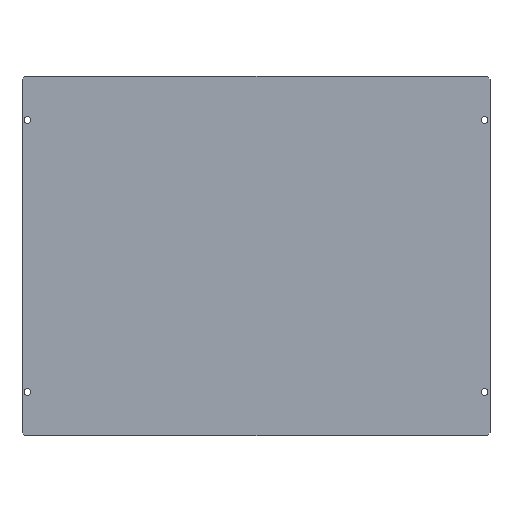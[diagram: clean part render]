
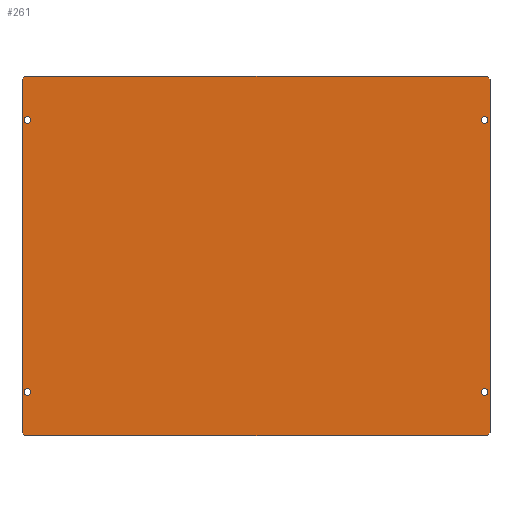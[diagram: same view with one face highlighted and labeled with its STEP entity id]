
A CAD part, front view. The second image highlights one B-rep face of the part: STEP entity #261.
In plain terms, the highlighted planar face has unit normal (0, -1, 0).
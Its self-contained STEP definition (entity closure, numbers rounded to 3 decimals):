
#4 = VERTEX_POINT ( 'NONE', #731 ) ;
#5 = DIRECTION ( 'NONE',  ( 0., 1., 0. ) ) ;
#8 = CARTESIAN_POINT ( 'NONE',  ( 85., 0., -66. ) ) ;
#15 = VERTEX_POINT ( 'NONE', #314 ) ;
#16 = LINE ( 'NONE', #64, #494 ) ;
#25 = VECTOR ( 'NONE', #175, 1000. ) ;
#42 = PLANE ( 'NONE',  #516 ) ;
#44 = DIRECTION ( 'NONE',  ( 0., 1., 0. ) ) ;
#56 = ORIENTED_EDGE ( 'NONE', *, *, #548, .T. ) ;
#58 = ORIENTED_EDGE ( 'NONE', *, *, #232, .T. ) ;
#59 = AXIS2_PLACEMENT_3D ( 'NONE', #673, #5, #184 ) ;
#64 = CARTESIAN_POINT ( 'NONE',  ( -86., 0., -66. ) ) ;
#67 = VERTEX_POINT ( 'NONE', #8 ) ;
#74 = VERTEX_POINT ( 'NONE', #346 ) ;
#77 = EDGE_CURVE ( 'NONE', #608, #513, #311, .T. ) ;
#78 = CARTESIAN_POINT ( 'NONE',  ( -84., 0., 50. ) ) ;
#80 = EDGE_LOOP ( 'NONE', ( #373, #345 ) ) ;
#87 = AXIS2_PLACEMENT_3D ( 'NONE', #78, #638, #337 ) ;
#97 = CARTESIAN_POINT ( 'NONE',  ( -86., 0., -65. ) ) ;
#100 = DIRECTION ( 'NONE',  ( 0.707, 0., 0.707 ) ) ;
#102 = DIRECTION ( 'NONE',  ( 0., 0., 1. ) ) ;
#104 = CIRCLE ( 'NONE', #59, 1.2 ) ;
#107 = FACE_BOUND ( 'NONE', #691, .T. ) ;
#108 = DIRECTION ( 'NONE',  ( 0., 1., 0. ) ) ;
#110 = EDGE_CURVE ( 'NONE', #336, #74, #316, .T. ) ;
#120 = EDGE_LOOP ( 'NONE', ( #644, #193 ) ) ;
#129 = DIRECTION ( 'NONE',  ( 0., 1., 0. ) ) ;
#133 = CARTESIAN_POINT ( 'NONE',  ( 86., 0., -65. ) ) ;
#158 = CARTESIAN_POINT ( 'NONE',  ( -85., 0., 66. ) ) ;
#159 = VECTOR ( 'NONE', #100, 1000. ) ;
#167 = DIRECTION ( 'NONE',  ( 0., 0., 1. ) ) ;
#168 = EDGE_CURVE ( 'NONE', #336, #278, #432, .T. ) ;
#175 = DIRECTION ( 'NONE',  ( -0.707, 0., 0.707 ) ) ;
#176 = CIRCLE ( 'NONE', #769, 1.2 ) ;
#180 = FACE_BOUND ( 'NONE', #226, .T. ) ;
#184 = DIRECTION ( 'NONE',  ( 0., 0., 1. ) ) ;
#188 = LINE ( 'NONE', #509, #482 ) ;
#191 = DIRECTION ( 'NONE',  ( 0., 0., 1. ) ) ;
#193 = ORIENTED_EDGE ( 'NONE', *, *, #497, .T. ) ;
#200 = DIRECTION ( 'NONE',  ( -1., 0., 0. ) ) ;
#202 = EDGE_CURVE ( 'NONE', #67, #738, #546, .T. ) ;
#203 = VECTOR ( 'NONE', #595, 1000. ) ;
#205 = VERTEX_POINT ( 'NONE', #528 ) ;
#217 = DIRECTION ( 'NONE',  ( 0.707, 0., -0.707 ) ) ;
#220 = CARTESIAN_POINT ( 'NONE',  ( -86., 0., -65. ) ) ;
#226 = EDGE_LOOP ( 'NONE', ( #549, #58 ) ) ;
#232 = EDGE_CURVE ( 'NONE', #15, #433, #392, .T. ) ;
#236 = DIRECTION ( 'NONE',  ( -0.707, 0., -0.707 ) ) ;
#243 = DIRECTION ( 'NONE',  ( 0., 0., 1. ) ) ;
#260 = DIRECTION ( 'NONE',  ( 0., 0., 1. ) ) ;
#261 = ADVANCED_FACE ( 'NONE', ( #180, #403, #291, #107, #742 ), #42, .F. ) ;
#274 = DIRECTION ( 'NONE',  ( 0., 1., 0. ) ) ;
#277 = EDGE_CURVE ( 'NONE', #445, #738, #441, .T. ) ;
#278 = VERTEX_POINT ( 'NONE', #774 ) ;
#287 = CIRCLE ( 'NONE', #616, 1.2 ) ;
#291 = FACE_BOUND ( 'NONE', #120, .T. ) ;
#296 = ORIENTED_EDGE ( 'NONE', *, *, #375, .T. ) ;
#297 = CARTESIAN_POINT ( 'NONE',  ( -86., 0., 66. ) ) ;
#300 = CIRCLE ( 'NONE', #413, 1.2 ) ;
#310 = CARTESIAN_POINT ( 'NONE',  ( -84., 0., 48.8 ) ) ;
#311 = CIRCLE ( 'NONE', #87, 1.2 ) ;
#314 = CARTESIAN_POINT ( 'NONE',  ( -84., 0., -51.2 ) ) ;
#316 = LINE ( 'NONE', #444, #203 ) ;
#325 = VECTOR ( 'NONE', #236, 1000. ) ;
#335 = VECTOR ( 'NONE', #655, 1000. ) ;
#336 = VERTEX_POINT ( 'NONE', #97 ) ;
#337 = DIRECTION ( 'NONE',  ( 0., 0., 1. ) ) ;
#339 = DIRECTION ( 'NONE',  ( 0., 0., 1. ) ) ;
#343 = EDGE_CURVE ( 'NONE', #421, #4, #594, .T. ) ;
#345 = ORIENTED_EDGE ( 'NONE', *, *, #77, .T. ) ;
#346 = CARTESIAN_POINT ( 'NONE',  ( -86., 0., 65. ) ) ;
#347 = ORIENTED_EDGE ( 'NONE', *, *, #202, .T. ) ;
#358 = CARTESIAN_POINT ( 'NONE',  ( 86., 0., 65. ) ) ;
#361 = DIRECTION ( 'NONE',  ( 0., 1., 0. ) ) ;
#365 = ORIENTED_EDGE ( 'NONE', *, *, #667, .F. ) ;
#366 = EDGE_LOOP ( 'NONE', ( #514, #56, #365, #296, #585, #582, #542, #347 ) ) ;
#370 = CARTESIAN_POINT ( 'NONE',  ( -84., 0., 51.2 ) ) ;
#373 = ORIENTED_EDGE ( 'NONE', *, *, #676, .T. ) ;
#375 = EDGE_CURVE ( 'NONE', #752, #74, #603, .T. ) ;
#378 = DIRECTION ( 'NONE',  ( 0., 1., 0. ) ) ;
#392 = CIRCLE ( 'NONE', #577, 1.2 ) ;
#403 = FACE_BOUND ( 'NONE', #80, .T. ) ;
#413 = AXIS2_PLACEMENT_3D ( 'NONE', #788, #378, #260 ) ;
#414 = VERTEX_POINT ( 'NONE', #653 ) ;
#421 = VERTEX_POINT ( 'NONE', #620 ) ;
#424 = VERTEX_POINT ( 'NONE', #557 ) ;
#426 = DIRECTION ( 'NONE',  ( 0., 1., 0. ) ) ;
#432 = LINE ( 'NONE', #220, #583 ) ;
#433 = VERTEX_POINT ( 'NONE', #434 ) ;
#434 = CARTESIAN_POINT ( 'NONE',  ( -84., 0., -48.8 ) ) ;
#439 = CARTESIAN_POINT ( 'NONE',  ( 86., 0., 65. ) ) ;
#441 = LINE ( 'NONE', #544, #335 ) ;
#442 = ORIENTED_EDGE ( 'NONE', *, *, #755, .T. ) ;
#444 = CARTESIAN_POINT ( 'NONE',  ( -86., 0., -66. ) ) ;
#445 = VERTEX_POINT ( 'NONE', #358 ) ;
#456 = CARTESIAN_POINT ( 'NONE',  ( 84., 0., -50. ) ) ;
#457 = EDGE_CURVE ( 'NONE', #433, #15, #300, .T. ) ;
#482 = VECTOR ( 'NONE', #743, 1000. ) ;
#486 = ORIENTED_EDGE ( 'NONE', *, *, #343, .T. ) ;
#494 = VECTOR ( 'NONE', #200, 1000. ) ;
#497 = EDGE_CURVE ( 'NONE', #414, #205, #563, .T. ) ;
#508 = CARTESIAN_POINT ( 'NONE',  ( -84., 0., 50. ) ) ;
#509 = CARTESIAN_POINT ( 'NONE',  ( -86., 0., 66. ) ) ;
#513 = VERTEX_POINT ( 'NONE', #370 ) ;
#514 = ORIENTED_EDGE ( 'NONE', *, *, #277, .F. ) ;
#516 = AXIS2_PLACEMENT_3D ( 'NONE', #297, #426, #102 ) ;
#528 = CARTESIAN_POINT ( 'NONE',  ( 84., 0., 51.2 ) ) ;
#539 = EDGE_CURVE ( 'NONE', #205, #414, #104, .T. ) ;
#542 = ORIENTED_EDGE ( 'NONE', *, *, #729, .F. ) ;
#544 = CARTESIAN_POINT ( 'NONE',  ( 86., 0., -66. ) ) ;
#546 = LINE ( 'NONE', #759, #159 ) ;
#548 = EDGE_CURVE ( 'NONE', #445, #424, #612, .T. ) ;
#549 = ORIENTED_EDGE ( 'NONE', *, *, #457, .T. ) ;
#554 = DIRECTION ( 'NONE',  ( 0., 0., 1. ) ) ;
#557 = CARTESIAN_POINT ( 'NONE',  ( 85., 0., 66. ) ) ;
#563 = CIRCLE ( 'NONE', #651, 1.2 ) ;
#571 = CARTESIAN_POINT ( 'NONE',  ( -85., 0., 66. ) ) ;
#573 = AXIS2_PLACEMENT_3D ( 'NONE', #709, #361, #167 ) ;
#577 = AXIS2_PLACEMENT_3D ( 'NONE', #602, #44, #243 ) ;
#582 = ORIENTED_EDGE ( 'NONE', *, *, #168, .T. ) ;
#583 = VECTOR ( 'NONE', #217, 1000. ) ;
#585 = ORIENTED_EDGE ( 'NONE', *, *, #110, .F. ) ;
#594 = CIRCLE ( 'NONE', #573, 1.2 ) ;
#595 = DIRECTION ( 'NONE',  ( 0., 0., 1. ) ) ;
#602 = CARTESIAN_POINT ( 'NONE',  ( -84., 0., -50. ) ) ;
#603 = LINE ( 'NONE', #158, #325 ) ;
#608 = VERTEX_POINT ( 'NONE', #310 ) ;
#612 = LINE ( 'NONE', #439, #25 ) ;
#616 = AXIS2_PLACEMENT_3D ( 'NONE', #508, #129, #191 ) ;
#620 = CARTESIAN_POINT ( 'NONE',  ( 84., 0., -48.8 ) ) ;
#638 = DIRECTION ( 'NONE',  ( 0., 1., 0. ) ) ;
#644 = ORIENTED_EDGE ( 'NONE', *, *, #539, .T. ) ;
#651 = AXIS2_PLACEMENT_3D ( 'NONE', #732, #108, #554 ) ;
#653 = CARTESIAN_POINT ( 'NONE',  ( 84., 0., 48.8 ) ) ;
#655 = DIRECTION ( 'NONE',  ( 0., 0., -1. ) ) ;
#667 = EDGE_CURVE ( 'NONE', #752, #424, #188, .T. ) ;
#673 = CARTESIAN_POINT ( 'NONE',  ( 84., 0., 50. ) ) ;
#676 = EDGE_CURVE ( 'NONE', #513, #608, #287, .T. ) ;
#691 = EDGE_LOOP ( 'NONE', ( #486, #442 ) ) ;
#709 = CARTESIAN_POINT ( 'NONE',  ( 84., 0., -50. ) ) ;
#729 = EDGE_CURVE ( 'NONE', #67, #278, #16, .T. ) ;
#731 = CARTESIAN_POINT ( 'NONE',  ( 84., 0., -51.2 ) ) ;
#732 = CARTESIAN_POINT ( 'NONE',  ( 84., 0., 50. ) ) ;
#738 = VERTEX_POINT ( 'NONE', #133 ) ;
#742 = FACE_OUTER_BOUND ( 'NONE', #366, .T. ) ;
#743 = DIRECTION ( 'NONE',  ( 1., 0., 0. ) ) ;
#752 = VERTEX_POINT ( 'NONE', #571 ) ;
#755 = EDGE_CURVE ( 'NONE', #4, #421, #176, .T. ) ;
#759 = CARTESIAN_POINT ( 'NONE',  ( 85., 0., -66. ) ) ;
#769 = AXIS2_PLACEMENT_3D ( 'NONE', #456, #274, #339 ) ;
#774 = CARTESIAN_POINT ( 'NONE',  ( -85., 0., -66. ) ) ;
#788 = CARTESIAN_POINT ( 'NONE',  ( -84., 0., -50. ) ) ;
